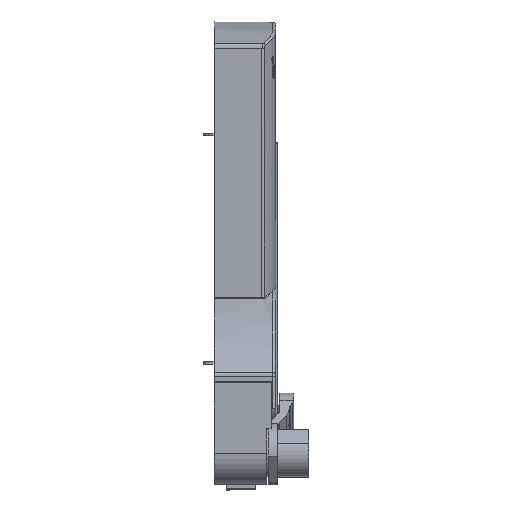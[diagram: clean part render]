
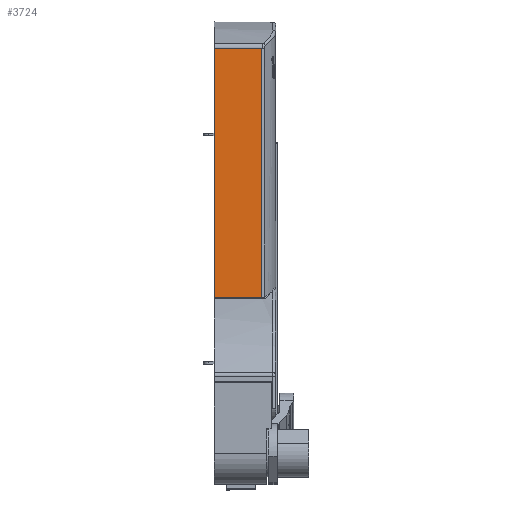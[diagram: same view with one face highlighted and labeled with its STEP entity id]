
A CAD part, top view. The second image highlights one B-rep face of the part: STEP entity #3724.
In plain terms, the highlighted planar face has unit normal (0, 0, 1).
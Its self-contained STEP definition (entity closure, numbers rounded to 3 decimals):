
#2036 = LINE ( 'NONE', #2054, #2478 ) ;
#2050 = LINE ( 'NONE', #2052, #2476 ) ;
#2052 = CARTESIAN_POINT ( 'NONE',  ( 26.858, 68.229, 24.257 ) ) ;
#2053 = DIRECTION ( 'NONE',  ( 1., 0., 0. ) ) ;
#2054 = CARTESIAN_POINT ( 'NONE',  ( 26.858, 101.957, 24.257 ) ) ;
#2055 = DIRECTION ( 'NONE',  ( 0., 1., 0. ) ) ;
#2056 = LINE ( 'NONE', #2057, #2480 ) ;
#2057 = CARTESIAN_POINT ( 'NONE',  ( 53., 208.25, 24.257 ) ) ;
#2058 = DIRECTION ( 'NONE',  ( -1., 0., 0. ) ) ;
#2476 = VECTOR ( 'NONE', #2053, 1000. ) ;
#2478 = VECTOR ( 'NONE', #2055, 1000. ) ;
#2480 = VECTOR ( 'NONE', #2058, 1000. ) ;
#3724 = ADVANCED_FACE ( 'NONE', ( #20101 ), #20102, .F. ) ;
#5045 = EDGE_LOOP ( 'NONE', ( #5496, #5497, #5498, #5499 ) ) ;
#5496 = ORIENTED_EDGE ( 'NONE', *, *, #19175, .T. ) ;
#5497 = ORIENTED_EDGE ( 'NONE', *, *, #14212, .T. ) ;
#5498 = ORIENTED_EDGE ( 'NONE', *, *, #14213, .T. ) ;
#5499 = ORIENTED_EDGE ( 'NONE', *, *, #14214, .T. ) ;
#6377 = CARTESIAN_POINT ( 'NONE',  ( 26.858, 68.229, 24.257 ) ) ;
#6385 = CARTESIAN_POINT ( 'NONE',  ( 26.858, 208.25, 24.257 ) ) ;
#8088 = VECTOR ( 'NONE', #11118, 1000. ) ;
#9478 = CARTESIAN_POINT ( 'NONE',  ( 0., 208.25, 24.257 ) ) ;
#9483 = CARTESIAN_POINT ( 'NONE',  ( 0., 68.229, 24.257 ) ) ;
#11110 = LINE ( 'NONE', #11111, #8088 ) ;
#11111 = CARTESIAN_POINT ( 'NONE',  ( 0., 101.957, 24.257 ) ) ;
#11118 = DIRECTION ( 'NONE',  ( 0., -1., 0. ) ) ;
#14212 = EDGE_CURVE ( 'NONE', #18799, #17232, #2050, .T. ) ;
#14213 = EDGE_CURVE ( 'NONE', #17232, #17241, #2036, .T. ) ;
#14214 = EDGE_CURVE ( 'NONE', #17241, #18794, #2056, .T. ) ;
#17232 = VERTEX_POINT ( 'NONE', #6377 ) ;
#17241 = VERTEX_POINT ( 'NONE', #6385 ) ;
#18794 = VERTEX_POINT ( 'NONE', #9478 ) ;
#18799 = VERTEX_POINT ( 'NONE', #9483 ) ;
#19175 = EDGE_CURVE ( 'NONE', #18794, #18799, #11110, .T. ) ;
#19835 = AXIS2_PLACEMENT_3D ( 'NONE', #20094, #20105, #20106 ) ;
#20094 = CARTESIAN_POINT ( 'NONE',  ( 53., 101.957, 24.257 ) ) ;
#20101 = FACE_OUTER_BOUND ( 'NONE', #5045, .T. ) ;
#20102 = PLANE ( 'NONE',  #19835 ) ;
#20105 = DIRECTION ( 'NONE',  ( 0., 0., -1. ) ) ;
#20106 = DIRECTION ( 'NONE',  ( -1., 0., 0. ) ) ;
